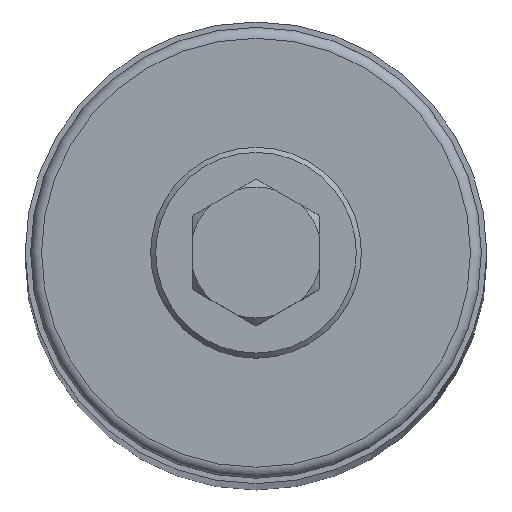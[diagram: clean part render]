
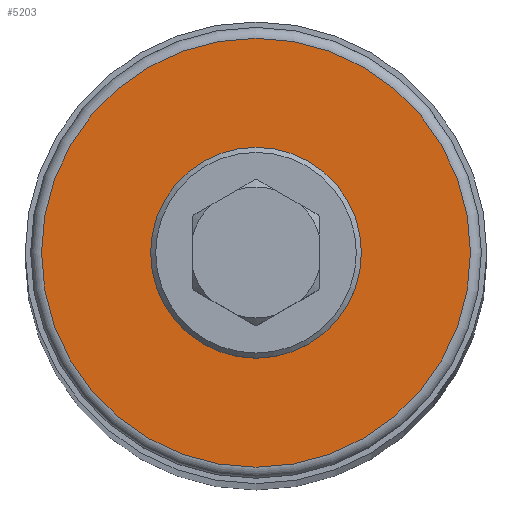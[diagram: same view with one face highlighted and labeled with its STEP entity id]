
A CAD part, top view. The second image highlights one B-rep face of the part: STEP entity #5203.
In plain terms, the highlighted planar face has unit normal (0, 0, 1).
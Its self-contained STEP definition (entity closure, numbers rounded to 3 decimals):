
#924=PLANE('',#5740);
#943=FACE_BOUND('',#1494,.T.);
#944=FACE_BOUND('',#1495,.T.);
#1494=EDGE_LOOP('',(#4695));
#1495=EDGE_LOOP('',(#4696));
#1792=CIRCLE('',#5736,14.5);
#1793=CIRCLE('',#5738,29.5);
#2392=VERTEX_POINT('',#11296);
#2393=VERTEX_POINT('',#11299);
#3180=EDGE_CURVE('',#2392,#2392,#1792,.T.);
#3181=EDGE_CURVE('',#2393,#2393,#1793,.T.);
#4695=ORIENTED_EDGE('',*,*,#3180,.T.);
#4696=ORIENTED_EDGE('',*,*,#3181,.F.);
#5203=ADVANCED_FACE('',(#943,#944),#924,.T.);
#5736=AXIS2_PLACEMENT_3D('',#11297,#6955,#6956);
#5738=AXIS2_PLACEMENT_3D('',#11300,#6959,#6960);
#5740=AXIS2_PLACEMENT_3D('',#11303,#6963,#6964);
#6955=DIRECTION('center_axis',(0.,0.,-1.));
#6956=DIRECTION('ref_axis',(1.,0.,0.));
#6959=DIRECTION('center_axis',(0.,0.,-1.));
#6960=DIRECTION('ref_axis',(0.,-1.,0.));
#6963=DIRECTION('center_axis',(0.,0.,1.));
#6964=DIRECTION('ref_axis',(1.,0.,0.));
#11296=CARTESIAN_POINT('',(0.,14.5,3.));
#11297=CARTESIAN_POINT('Origin',(0.,0.,3.));
#11299=CARTESIAN_POINT('',(0.,29.5,3.));
#11300=CARTESIAN_POINT('Origin',(0.,0.,3.));
#11303=CARTESIAN_POINT('Origin',(0.,31.,3.));
